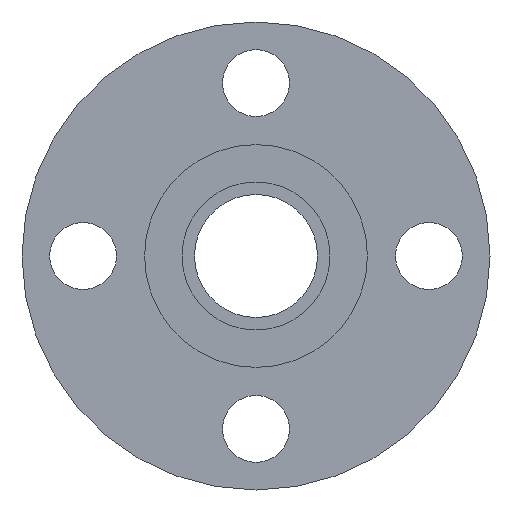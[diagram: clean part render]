
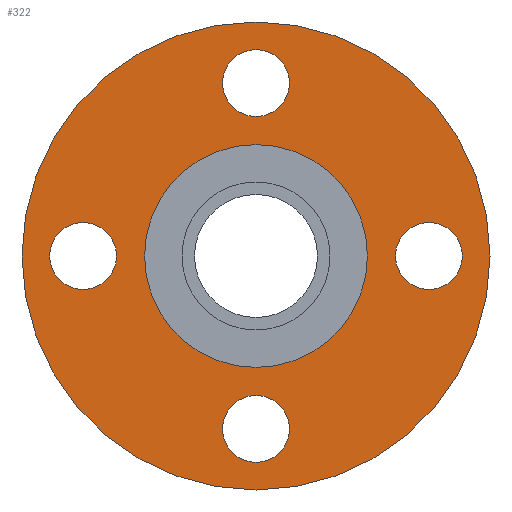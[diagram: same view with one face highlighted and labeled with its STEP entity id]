
A CAD part, left-side view. The second image highlights one B-rep face of the part: STEP entity #322.
In plain terms, the highlighted planar face has unit normal (-1, 0, 0).
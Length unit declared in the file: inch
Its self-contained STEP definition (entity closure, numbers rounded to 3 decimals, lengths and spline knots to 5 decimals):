
#14=FACE_BOUND('',#56,.T.);
#15=FACE_BOUND('',#57,.T.);
#16=FACE_BOUND('',#58,.T.);
#17=FACE_BOUND('',#59,.T.);
#18=FACE_BOUND('',#60,.T.);
#28=PLANE('',#370);
#39=FACE_OUTER_BOUND('',#55,.T.);
#55=EDGE_LOOP('',(#228,#229));
#56=EDGE_LOOP('',(#230));
#57=EDGE_LOOP('',(#231));
#58=EDGE_LOOP('',(#232));
#59=EDGE_LOOP('',(#233));
#60=EDGE_LOOP('',(#234,#235));
#101=CIRCLE('',#355,0.375);
#103=CIRCLE('',#358,0.375);
#105=CIRCLE('',#361,0.375);
#107=CIRCLE('',#364,0.375);
#108=CIRCLE('',#366,2.625);
#109=CIRCLE('',#367,2.625);
#112=CIRCLE('',#371,1.25);
#113=CIRCLE('',#372,1.25);
#133=VERTEX_POINT('',#513);
#135=VERTEX_POINT('',#519);
#137=VERTEX_POINT('',#525);
#139=VERTEX_POINT('',#531);
#140=VERTEX_POINT('',#535);
#141=VERTEX_POINT('',#536);
#144=VERTEX_POINT('',#545);
#145=VERTEX_POINT('',#546);
#166=EDGE_CURVE('',#133,#133,#101,.T.);
#169=EDGE_CURVE('',#135,#135,#103,.T.);
#172=EDGE_CURVE('',#137,#137,#105,.T.);
#175=EDGE_CURVE('',#139,#139,#107,.T.);
#176=EDGE_CURVE('',#140,#141,#108,.T.);
#177=EDGE_CURVE('',#141,#140,#109,.T.);
#181=EDGE_CURVE('',#144,#145,#112,.T.);
#182=EDGE_CURVE('',#145,#144,#113,.T.);
#228=ORIENTED_EDGE('',*,*,#176,.T.);
#229=ORIENTED_EDGE('',*,*,#177,.T.);
#230=ORIENTED_EDGE('',*,*,#166,.T.);
#231=ORIENTED_EDGE('',*,*,#169,.T.);
#232=ORIENTED_EDGE('',*,*,#172,.T.);
#233=ORIENTED_EDGE('',*,*,#175,.T.);
#234=ORIENTED_EDGE('',*,*,#181,.F.);
#235=ORIENTED_EDGE('',*,*,#182,.F.);
#322=ADVANCED_FACE('',(#39,#14,#15,#16,#17,#18),#28,.T.);
#355=AXIS2_PLACEMENT_3D('',#515,#408,#409);
#358=AXIS2_PLACEMENT_3D('',#521,#415,#416);
#361=AXIS2_PLACEMENT_3D('',#527,#422,#423);
#364=AXIS2_PLACEMENT_3D('',#533,#429,#430);
#366=AXIS2_PLACEMENT_3D('',#537,#433,#434);
#367=AXIS2_PLACEMENT_3D('',#538,#435,#436);
#370=AXIS2_PLACEMENT_3D('',#544,#442,#443);
#371=AXIS2_PLACEMENT_3D('',#547,#444,#445);
#372=AXIS2_PLACEMENT_3D('',#548,#446,#447);
#408=DIRECTION('center_axis',(1.,0.,0.));
#409=DIRECTION('ref_axis',(0.,-1.,0.));
#415=DIRECTION('center_axis',(1.,0.,0.));
#416=DIRECTION('ref_axis',(0.,0.,-1.));
#422=DIRECTION('center_axis',(1.,0.,0.));
#423=DIRECTION('ref_axis',(0.,1.,0.));
#429=DIRECTION('center_axis',(1.,0.,0.));
#430=DIRECTION('ref_axis',(0.,0.,1.));
#433=DIRECTION('center_axis',(-1.,0.,0.));
#434=DIRECTION('ref_axis',(0.,0.,1.));
#435=DIRECTION('center_axis',(-1.,0.,0.));
#436=DIRECTION('ref_axis',(0.,0.,1.));
#442=DIRECTION('center_axis',(-1.,0.,0.));
#443=DIRECTION('ref_axis',(0.,0.,1.));
#444=DIRECTION('center_axis',(-1.,0.,0.));
#445=DIRECTION('ref_axis',(0.,0.,1.));
#446=DIRECTION('center_axis',(-1.,0.,0.));
#447=DIRECTION('ref_axis',(0.,0.,1.));
#513=CARTESIAN_POINT('',(-0.75,2.315,0.));
#515=CARTESIAN_POINT('Origin',(-0.75,1.94,0.));
#519=CARTESIAN_POINT('',(-0.75,0.,2.315));
#521=CARTESIAN_POINT('Origin',(-0.75,0.,1.94));
#525=CARTESIAN_POINT('',(-0.75,-2.315,0.));
#527=CARTESIAN_POINT('Origin',(-0.75,-1.94,0.));
#531=CARTESIAN_POINT('',(-0.75,0.,-2.315));
#533=CARTESIAN_POINT('Origin',(-0.75,0.,-1.94));
#535=CARTESIAN_POINT('',(-0.75,0.,2.625));
#536=CARTESIAN_POINT('',(-0.75,0.,-2.625));
#537=CARTESIAN_POINT('Origin',(-0.75,0.,0.));
#538=CARTESIAN_POINT('Origin',(-0.75,0.,0.));
#544=CARTESIAN_POINT('Origin',(-0.75,0.,1.9375));
#545=CARTESIAN_POINT('',(-0.75,0.,1.25));
#546=CARTESIAN_POINT('',(-0.75,0.,-1.25));
#547=CARTESIAN_POINT('Origin',(-0.75,0.,0.));
#548=CARTESIAN_POINT('Origin',(-0.75,0.,0.));
